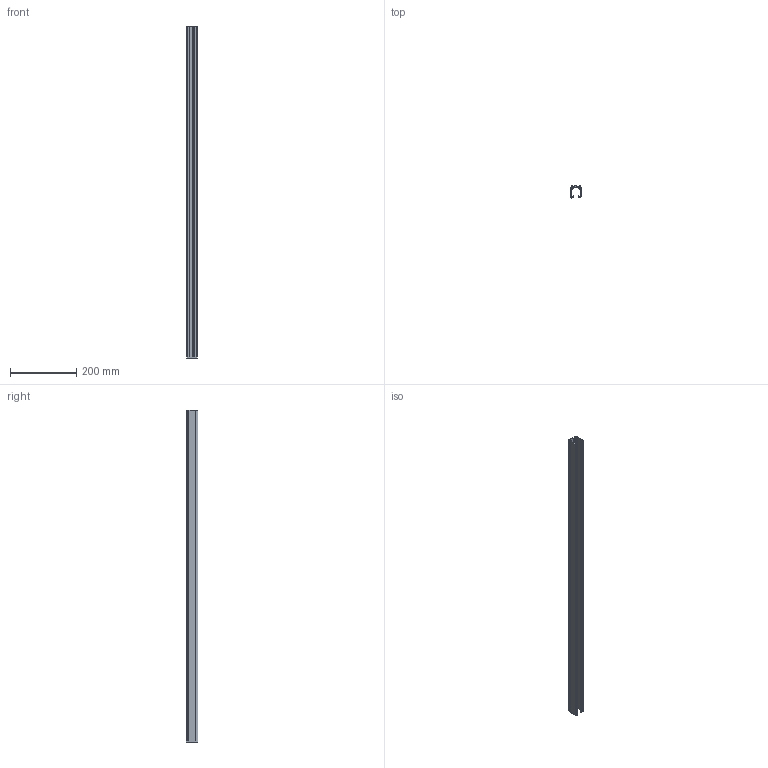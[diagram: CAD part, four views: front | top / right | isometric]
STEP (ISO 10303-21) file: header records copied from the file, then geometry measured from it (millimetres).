
FILE_DESCRIPTION (( 'STEP AP203' ), '1' );
FILE_NAME ('XTS4100_Dummy.STEP', '2018-01-26T09:38:36', ( '' ), ( '' ), 'SwSTEP 2.0', 'SolidWorks 2017', '' );
FILE_SCHEMA (( 'CONFIG_CONTROL_DESIGN' ));
Length unit declared in the file: millimetre
Products named in the file (1): XTS4100_Dummy
Bounding box: 31.4 x 35.5 x 1000 mm (x, y, z)
Volume: 212190 mm3; surface area: 241855.4 mm2
Topology: 1 solids, 1 shells, 123 faces, 363 edges, 242 vertices
Faces by surface type: plane 65, cylinder 58
Entity records: 4210 total; most frequent: CARTESIAN_POINT 729, DIRECTION 727, ORIENTED_EDGE 726, EDGE_CURVE 363, LINE 247, VECTOR 247, VERTEX_POINT 242, AXIS2_PLACEMENT_3D 240
